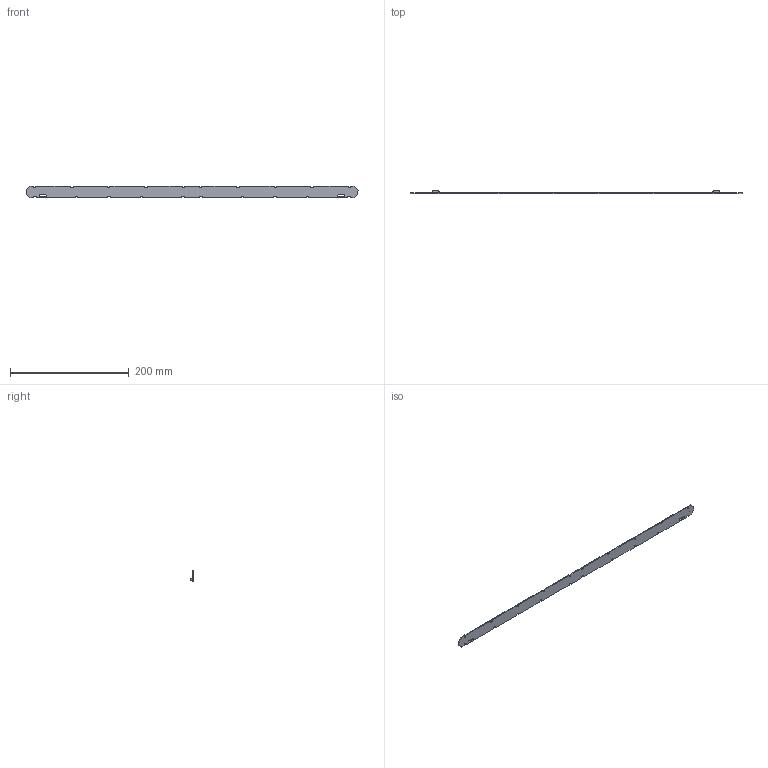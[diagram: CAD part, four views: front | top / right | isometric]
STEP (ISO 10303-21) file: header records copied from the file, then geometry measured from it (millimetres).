
FILE_DESCRIPTION (( 'STEP AP214' ), '1' );
FILE_NAME ('4162883swm000.step', '2020-02-24T08:52:47', ( 'OSRAM' ), ( 'OSRAM' ), 'SwSTEP 2.0', 'SolidWorks 2017', '' );
FILE_SCHEMA (( 'AUTOMOTIVE_DESIGN' ));
Length unit declared in the file: millimetre
Products named in the file (4): 3792700swm000; 3755688swm000; 4162886swm000; 4162883swm000
Assembly tree (4 placements, depth 2):
  4162883swm000
    4162886swm000
    3755688swm000
    3792700swm000  x2
Bounding box: 559.5 x 5.55 x 20 mm (x, y, z)
Volume: 18082.7 mm3; surface area: 26205.5 mm2
Topology: 76 solids, 76 shells, 1568 faces, 3956 edges, 2620 vertices
Faces by surface type: plane 1406, cylinder 102, bspline 56, cone 4
Entity records: 58360 total; most frequent: CARTESIAN_POINT 8578, ORIENTED_EDGE 7332, DIRECTION 6539, EDGE_CURVE 3666, VECTOR 3451, LINE 3451, VERTEX_POINT 2436, AXIS2_PLACEMENT_3D 1544
